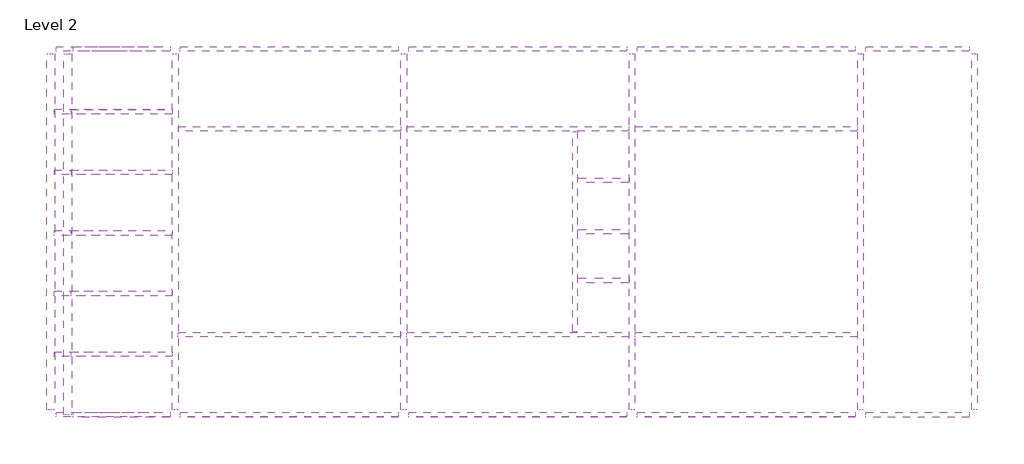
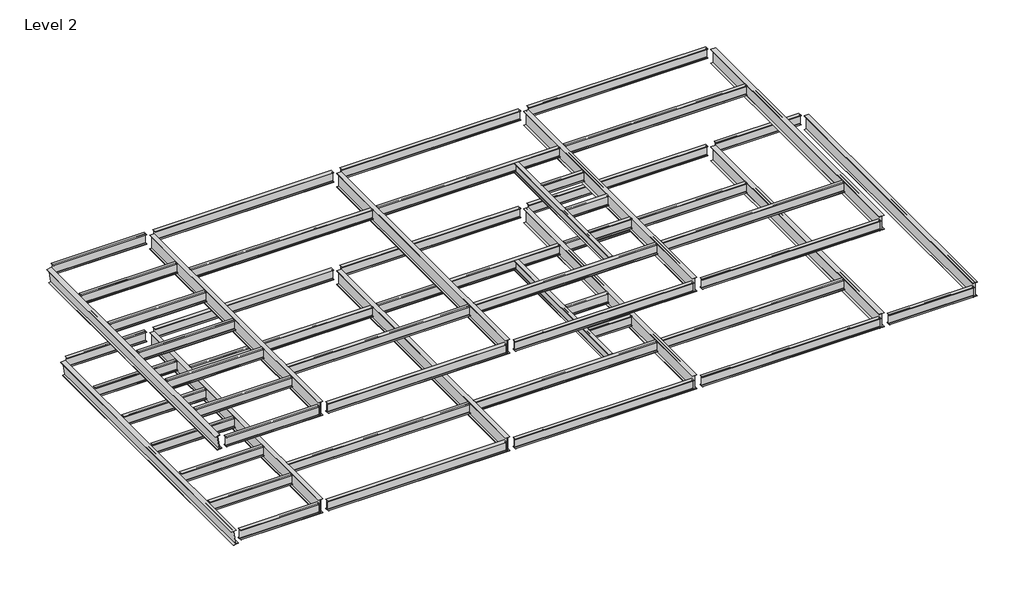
# One storey: 59 beams.
"""IFC4 building model written with IfcOpenShell, lengths in millimetres."""

from ifc_helpers import new_model, si_unit, origin, place, context, project, spatial, transform, mapped, element, save
from components import ub_universal_beams_as_3679_1_530ub92_4_72efcd79, ub_universal_beams_as_3679_1_530ub92_4_55a1222a, ub_universal_beams_as_3679_1_530ub92_4_fbe5a87e, ub_universal_beams_as_3679_1_530ub92_4_b1e17459, ub_universal_beams_as_3679_1_530ub92_4_e068ee1b, ub_universal_beams_as_3679_1_530ub92_4_2ab20e32, ub_universal_beams_as_3679_1_530ub92_4_ca06928b, ub_universal_beams_as_3679_1_530ub92_4_c3b5dabe, ub_universal_beams_as_3679_1_530ub92_4_e80fb2e1, ub_universal_beams_as_3679_1_530ub92_4_c07f3189, ub_universal_beams_as_3679_1_530ub92_4_f17eb3f2, ub_universal_beams_as_3679_1_530ub92_4_80d32716, ub_universal_beams_as_3679_1_530ub92_4_7000386a, ub_universal_beams_as_3679_1_530ub92_4_67ad7e9f, ub_universal_beams_as_3679_1_530ub92_4_e2c91430, wb_welded_beams_as_3679_2_800wb122_c41ef6cc, wb_welded_beams_as_3679_2_800wb122_3b9a96c3

model = new_model("IFC4")

# Units and contexts
model_context = context("Model", 3, world=origin())
ifc_project = project(units=[si_unit("LENGTHUNIT", "METRE", prefix="MILLI")], contexts=[model_context])

# Site, building, storey
site = spatial("IfcSite", under=ifc_project)
building = spatial("IfcBuilding", under=site)
storey = spatial("IfcBuildingStorey", under=building, Name="Level 2", Elevation=3000.0)

# Beams
placement = place(None, origin())
ub_universal_beams_as_3679_1_530ub92_4_shape = ub_universal_beams_as_3679_1_530ub92_4_72efcd79(model_context)
element("IfcBeam", 1, ObjectType="UB-Universal Beams (AS 3679_1) : 530UB92.4", at=placement, inside=storey, context=model_context, shape_type="MappedRepresentation", body=[
    mapped(ub_universal_beams_as_3679_1_530ub92_4_shape, transform((4197.5, -9335.0, 5233.5), x_axis=(1.0, 0.0, 0.0), y_axis=(0.0, 1.0, 0.0), z_axis=(0.0, 0.0, 1.0))),
])
element("IfcBeam", 2, ObjectType="UB-Universal Beams (AS 3679_1) : 530UB92.4", at=placement, inside=storey, context=model_context, shape_type="MappedRepresentation", body=[
    mapped(ub_universal_beams_as_3679_1_530ub92_4_shape, transform((4197.5, -11985.0, 5233.5), x_axis=(1.0, 0.0, 0.0), y_axis=(0.0, 1.0, 0.0), z_axis=(0.0, 0.0, 1.0))),
])
ub_universal_beams_as_3679_1_530ub92_4_2_shape = ub_universal_beams_as_3679_1_530ub92_4_55a1222a(model_context)
element("IfcBeam", 3, ObjectType="UB-Universal Beams (AS 3679_1) : 530UB92.4", at=placement, inside=storey, context=model_context, shape_type="MappedRepresentation", body=[
    mapped(ub_universal_beams_as_3679_1_530ub92_4_2_shape, transform((4197.5, -6685.0, 5233.5), x_axis=(1.0, 0.0, 0.0), y_axis=(0.0, 1.0, 0.0), z_axis=(0.0, 0.0, 1.0))),
])
element("IfcBeam", 4, ObjectType="UB-Universal Beams (AS 3679_1) : 530UB92.4", at=placement, inside=storey, context=model_context, shape_type="MappedRepresentation", body=[
    mapped(ub_universal_beams_as_3679_1_530ub92_4_2_shape, transform((4197.5, -4035.0, 5233.5), x_axis=(1.0, 0.0, 0.0), y_axis=(0.0, 1.0, 0.0), z_axis=(0.0, 0.0, 1.0))),
])
element("IfcBeam", 5, ObjectType="UB-Universal Beams (AS 3679_1) : 530UB92.4", at=placement, inside=storey, context=model_context, shape_type="MappedRepresentation", body=[
    mapped(ub_universal_beams_as_3679_1_530ub92_4_2_shape, transform((4197.5, -1385.0, 5233.5), x_axis=(1.0, 0.0, 0.0), y_axis=(0.0, 1.0, 0.0), z_axis=(0.0, 0.0, 1.0))),
])
ub_universal_beams_as_3679_1_530ub92_4_3_shape = ub_universal_beams_as_3679_1_530ub92_4_fbe5a87e(model_context)
element("IfcBeam", 6, ObjectType="UB-Universal Beams (AS 3679_1) : 530UB92.4", at=placement, inside=storey, context=model_context, shape_type="MappedRepresentation", body=[
    mapped(ub_universal_beams_as_3679_1_530ub92_4_3_shape, transform((4260.0, 1365.0, 5233.5), x_axis=(1.0, 0.0, 0.0), y_axis=(0.0, 1.0, 0.0), z_axis=(0.0, 0.0, 1.0))),
])
ub_universal_beams_as_3679_1_530ub92_4_4_shape = ub_universal_beams_as_3679_1_530ub92_4_b1e17459(model_context)
element("IfcBeam", 7, ObjectType="UB-Universal Beams (AS 3679_1) : 530UB92.4", at=placement, inside=storey, context=model_context, shape_type="MappedRepresentation", body=[
    mapped(ub_universal_beams_as_3679_1_530ub92_4_4_shape, transform((4260.0, -14635.0, 5233.5), x_axis=(-1.0, 0.0, 0.0), y_axis=(0.0, -1.0, 0.0), z_axis=(0.0, 0.0, 1.0))),
])
ub_universal_beams_as_3679_1_530ub92_4_5_shape = ub_universal_beams_as_3679_1_530ub92_4_e068ee1b(model_context)
element("IfcBeam", 8, ObjectType="UB-Universal Beams (AS 3679_1) : 530UB92.4", at=placement, inside=storey, context=model_context, shape_type="MappedRepresentation", body=[
    mapped(ub_universal_beams_as_3679_1_530ub92_4_5_shape, transform((3885.0, -14635.0, 10733.5), x_axis=(-1.0, 0.0, 0.0), y_axis=(0.0, -1.0, 0.0), z_axis=(0.0, 0.0, 1.0))),
])
ub_universal_beams_as_3679_1_530ub92_4_6_shape = ub_universal_beams_as_3679_1_530ub92_4_2ab20e32(model_context)
element("IfcBeam", 9, ObjectType="UB-Universal Beams (AS 3679_1) : 530UB92.4", at=placement, inside=storey, context=model_context, shape_type="MappedRepresentation", body=[
    mapped(ub_universal_beams_as_3679_1_530ub92_4_6_shape, transform((3822.5, -11985.0, 10733.5), x_axis=(1.0, 0.0, 0.0), y_axis=(0.0, 1.0, 0.0), z_axis=(0.0, 0.0, 1.0))),
])
element("IfcBeam", 10, ObjectType="UB-Universal Beams (AS 3679_1) : 530UB92.4", at=placement, inside=storey, context=model_context, shape_type="MappedRepresentation", body=[
    mapped(ub_universal_beams_as_3679_1_530ub92_4_6_shape, transform((3822.5, -9335.0, 10733.5), x_axis=(1.0, 0.0, 0.0), y_axis=(0.0, 1.0, 0.0), z_axis=(0.0, 0.0, 1.0))),
])
element("IfcBeam", 11, ObjectType="UB-Universal Beams (AS 3679_1) : 530UB92.4", at=placement, inside=storey, context=model_context, shape_type="MappedRepresentation", body=[
    mapped(ub_universal_beams_as_3679_1_530ub92_4_6_shape, transform((3822.5, -6685.0, 10733.5), x_axis=(1.0, 0.0, 0.0), y_axis=(0.0, 1.0, 0.0), z_axis=(0.0, 0.0, 1.0))),
])
element("IfcBeam", 12, ObjectType="UB-Universal Beams (AS 3679_1) : 530UB92.4", at=placement, inside=storey, context=model_context, shape_type="MappedRepresentation", body=[
    mapped(ub_universal_beams_as_3679_1_530ub92_4_6_shape, transform((3822.5, -4035.0, 10733.5), x_axis=(1.0, 0.0, 0.0), y_axis=(0.0, 1.0, 0.0), z_axis=(0.0, 0.0, 1.0))),
])
ub_universal_beams_as_3679_1_530ub92_4_7_shape = ub_universal_beams_as_3679_1_530ub92_4_ca06928b(model_context)
element("IfcBeam", 13, ObjectType="UB-Universal Beams (AS 3679_1) : 530UB92.4", at=placement, inside=storey, context=model_context, shape_type="MappedRepresentation", body=[
    mapped(ub_universal_beams_as_3679_1_530ub92_4_7_shape, transform((3822.5, -1385.0, 10733.5), x_axis=(1.0, 0.0, 0.0), y_axis=(0.0, 1.0, 0.0), z_axis=(0.0, 0.0, 1.0))),
])
ub_universal_beams_as_3679_1_530ub92_4_8_shape = ub_universal_beams_as_3679_1_530ub92_4_c3b5dabe(model_context)
element("IfcBeam", 14, ObjectType="UB-Universal Beams (AS 3679_1) : 530UB92.4", at=placement, inside=storey, context=model_context, shape_type="MappedRepresentation", body=[
    mapped(ub_universal_beams_as_3679_1_530ub92_4_8_shape, transform((3885.0, 1365.0, 10733.5), x_axis=(1.0, 0.0, 0.0), y_axis=(0.0, 1.0, 0.0), z_axis=(0.0, 0.0, 1.0))),
])
ub_universal_beams_as_3679_1_530ub92_4_9_shape = ub_universal_beams_as_3679_1_530ub92_4_e80fb2e1(model_context)
element("IfcBeam", 15, ObjectType="UB-Universal Beams (AS 3679_1) : 530UB92.4", at=placement, inside=storey, context=model_context, shape_type="MappedRepresentation", body=[
    mapped(ub_universal_beams_as_3679_1_530ub92_4_9_shape, transform((21608.3, -14635.0, 5233.5), x_axis=(-1.0, 0.0, 0.0), y_axis=(0.0, -1.0, 0.0), z_axis=(0.0, 0.0, 1.0))),
])
element("IfcBeam", 16, ObjectType="UB-Universal Beams (AS 3679_1) : 530UB92.4", at=placement, inside=storey, context=model_context, shape_type="MappedRepresentation", body=[
    mapped(ub_universal_beams_as_3679_1_530ub92_4_9_shape, transform((11626.1, -14635.0, 5233.5), x_axis=(-1.0, 0.0, 0.0), y_axis=(0.0, -1.0, 0.0), z_axis=(0.0, 0.0, 1.0))),
])
element("IfcBeam", 17, ObjectType="UB-Universal Beams (AS 3679_1) : 530UB92.4", at=placement, inside=storey, context=model_context, shape_type="MappedRepresentation", body=[
    mapped(ub_universal_beams_as_3679_1_530ub92_4_9_shape, transform((11626.1, 1365.0, 5233.5), x_axis=(1.0, 0.0, 0.0), y_axis=(0.0, 1.0, 0.0), z_axis=(0.0, 0.0, 1.0))),
])
element("IfcBeam", 18, ObjectType="UB-Universal Beams (AS 3679_1) : 530UB92.4", at=placement, inside=storey, context=model_context, shape_type="MappedRepresentation", body=[
    mapped(ub_universal_beams_as_3679_1_530ub92_4_9_shape, transform((21608.3, 1365.0, 5233.5), x_axis=(1.0, 0.0, 0.0), y_axis=(0.0, 1.0, 0.0), z_axis=(0.0, 0.0, 1.0))),
])
element("IfcBeam", 19, ObjectType="UB-Universal Beams (AS 3679_1) : 530UB92.4", at=placement, inside=storey, context=model_context, shape_type="MappedRepresentation", body=[
    mapped(ub_universal_beams_as_3679_1_530ub92_4_9_shape, transform((31590.5, 1365.0, 5233.5), x_axis=(1.0, 0.0, 0.0), y_axis=(0.0, 1.0, 0.0), z_axis=(0.0, 0.0, 1.0))),
])
element("IfcBeam", 20, ObjectType="UB-Universal Beams (AS 3679_1) : 530UB92.4", at=placement, inside=storey, context=model_context, shape_type="MappedRepresentation", body=[
    mapped(ub_universal_beams_as_3679_1_530ub92_4_9_shape, transform((31590.5, -14635.0, 10733.5), x_axis=(-1.0, 0.0, 0.0), y_axis=(0.0, -1.0, 0.0), z_axis=(0.0, 0.0, 1.0))),
])
element("IfcBeam", 21, ObjectType="UB-Universal Beams (AS 3679_1) : 530UB92.4", at=placement, inside=storey, context=model_context, shape_type="MappedRepresentation", body=[
    mapped(ub_universal_beams_as_3679_1_530ub92_4_9_shape, transform((21608.3, -14635.0, 10733.5), x_axis=(-1.0, 0.0, 0.0), y_axis=(0.0, -1.0, 0.0), z_axis=(0.0, 0.0, 1.0))),
])
element("IfcBeam", 22, ObjectType="UB-Universal Beams (AS 3679_1) : 530UB92.4", at=placement, inside=storey, context=model_context, shape_type="MappedRepresentation", body=[
    mapped(ub_universal_beams_as_3679_1_530ub92_4_9_shape, transform((11626.1, -14635.0, 10733.5), x_axis=(-1.0, 0.0, 0.0), y_axis=(0.0, -1.0, 0.0), z_axis=(0.0, 0.0, 1.0))),
])
element("IfcBeam", 23, ObjectType="UB-Universal Beams (AS 3679_1) : 530UB92.4", at=placement, inside=storey, context=model_context, shape_type="MappedRepresentation", body=[
    mapped(ub_universal_beams_as_3679_1_530ub92_4_9_shape, transform((11626.1, 1365.0, 10733.5), x_axis=(1.0, 0.0, 0.0), y_axis=(0.0, 1.0, 0.0), z_axis=(0.0, 0.0, 1.0))),
])
element("IfcBeam", 24, ObjectType="UB-Universal Beams (AS 3679_1) : 530UB92.4", at=placement, inside=storey, context=model_context, shape_type="MappedRepresentation", body=[
    mapped(ub_universal_beams_as_3679_1_530ub92_4_9_shape, transform((21608.3, 1365.0, 10733.5), x_axis=(1.0, 0.0, 0.0), y_axis=(0.0, 1.0, 0.0), z_axis=(0.0, 0.0, 1.0))),
])
element("IfcBeam", 25, ObjectType="UB-Universal Beams (AS 3679_1) : 530UB92.4", at=placement, inside=storey, context=model_context, shape_type="MappedRepresentation", body=[
    mapped(ub_universal_beams_as_3679_1_530ub92_4_9_shape, transform((31590.5, 1365.0, 10733.5), x_axis=(1.0, 0.0, 0.0), y_axis=(0.0, 1.0, 0.0), z_axis=(0.0, 0.0, 1.0))),
])
element("IfcBeam", 26, ObjectType="UB-Universal Beams (AS 3679_1) : 530UB92.4", at=placement, inside=storey, context=model_context, shape_type="MappedRepresentation", body=[
    mapped(ub_universal_beams_as_3679_1_530ub92_4_9_shape, transform((31590.5, -14635.0, 5233.5), x_axis=(-1.0, 0.0, 0.0), y_axis=(0.0, -1.0, 0.0), z_axis=(0.0, 0.0, 1.0))),
])
ub_universal_beams_as_3679_1_530ub92_4_10_shape = ub_universal_beams_as_3679_1_530ub92_4_c07f3189(model_context)
element("IfcBeam", 27, ObjectType="UB-Universal Beams (AS 3679_1) : 530UB92.4", at=placement, inside=storey, context=model_context, shape_type="MappedRepresentation", body=[
    mapped(ub_universal_beams_as_3679_1_530ub92_4_10_shape, transform((11688.6, -11135.0, 5233.5), x_axis=(-1.0, 0.0, 0.0), y_axis=(0.0, -1.0, 0.0), z_axis=(0.0, 0.0, 1.0))),
])
element("IfcBeam", 28, ObjectType="UB-Universal Beams (AS 3679_1) : 530UB92.4", at=placement, inside=storey, context=model_context, shape_type="MappedRepresentation", body=[
    mapped(ub_universal_beams_as_3679_1_530ub92_4_10_shape, transform((11688.6, -2135.0, 5233.5), x_axis=(-1.0, 0.0, 0.0), y_axis=(0.0, -1.0, 0.0), z_axis=(0.0, 0.0, 1.0))),
])
element("IfcBeam", 29, ObjectType="UB-Universal Beams (AS 3679_1) : 530UB92.4", at=placement, inside=storey, context=model_context, shape_type="MappedRepresentation", body=[
    mapped(ub_universal_beams_as_3679_1_530ub92_4_10_shape, transform((11688.6, -2135.0, 10733.5), x_axis=(-1.0, 0.0, 0.0), y_axis=(0.0, -1.0, 0.0), z_axis=(0.0, 0.0, 1.0))),
])
element("IfcBeam", 30, ObjectType="UB-Universal Beams (AS 3679_1) : 530UB92.4", at=placement, inside=storey, context=model_context, shape_type="MappedRepresentation", body=[
    mapped(ub_universal_beams_as_3679_1_530ub92_4_10_shape, transform((11688.6, -11135.0, 10733.5), x_axis=(-1.0, 0.0, 0.0), y_axis=(0.0, -1.0, 0.0), z_axis=(0.0, 0.0, 1.0))),
])
ub_universal_beams_as_3679_1_530ub92_4_11_shape = ub_universal_beams_as_3679_1_530ub92_4_f17eb3f2(model_context)
element("IfcBeam", 31, ObjectType="UB-Universal Beams (AS 3679_1) : 530UB92.4", at=placement, inside=storey, context=model_context, shape_type="MappedRepresentation", body=[
    mapped(ub_universal_beams_as_3679_1_530ub92_4_11_shape, transform((25286.9, -4385.0, 10733.5), x_axis=(1.0, 0.0, 0.0), y_axis=(0.0, 1.0, 0.0), z_axis=(0.0, 0.0, 1.0))),
])
element("IfcBeam", 32, ObjectType="UB-Universal Beams (AS 3679_1) : 530UB92.4", at=placement, inside=storey, context=model_context, shape_type="MappedRepresentation", body=[
    mapped(ub_universal_beams_as_3679_1_530ub92_4_11_shape, transform((25286.9, -8760.0, 10733.5), x_axis=(1.0, 0.0, 0.0), y_axis=(0.0, 1.0, 0.0), z_axis=(0.0, 0.0, 1.0))),
])
element("IfcBeam", 33, ObjectType="UB-Universal Beams (AS 3679_1) : 530UB92.4", at=placement, inside=storey, context=model_context, shape_type="MappedRepresentation", body=[
    mapped(ub_universal_beams_as_3679_1_530ub92_4_11_shape, transform((25286.9, -4385.0, 5233.5), x_axis=(1.0, 0.0, 0.0), y_axis=(0.0, 1.0, 0.0), z_axis=(0.0, 0.0, 1.0))),
])
element("IfcBeam", 34, ObjectType="UB-Universal Beams (AS 3679_1) : 530UB92.4", at=placement, inside=storey, context=model_context, shape_type="MappedRepresentation", body=[
    mapped(ub_universal_beams_as_3679_1_530ub92_4_11_shape, transform((25286.9, -8760.0, 5233.5), x_axis=(1.0, 0.0, 0.0), y_axis=(0.0, 1.0, 0.0), z_axis=(0.0, 0.0, 1.0))),
])
ub_universal_beams_as_3679_1_530ub92_4_12_shape = ub_universal_beams_as_3679_1_530ub92_4_80d32716(model_context)
element("IfcBeam", 35, ObjectType="UB-Universal Beams (AS 3679_1) : 530UB92.4", at=placement, inside=storey, context=model_context, shape_type="MappedRepresentation", body=[
    mapped(ub_universal_beams_as_3679_1_530ub92_4_12_shape, transform((31590.5, -11135.0, 5233.5), x_axis=(-1.0, 0.0, 0.0), y_axis=(0.0, -1.0, 0.0), z_axis=(0.0, 0.0, 1.0))),
])
element("IfcBeam", 36, ObjectType="UB-Universal Beams (AS 3679_1) : 530UB92.4", at=placement, inside=storey, context=model_context, shape_type="MappedRepresentation", body=[
    mapped(ub_universal_beams_as_3679_1_530ub92_4_12_shape, transform((21608.3, -11135.0, 5233.5), x_axis=(-1.0, 0.0, 0.0), y_axis=(0.0, -1.0, 0.0), z_axis=(0.0, 0.0, 1.0))),
])
element("IfcBeam", 37, ObjectType="UB-Universal Beams (AS 3679_1) : 530UB92.4", at=placement, inside=storey, context=model_context, shape_type="MappedRepresentation", body=[
    mapped(ub_universal_beams_as_3679_1_530ub92_4_12_shape, transform((31590.5, -2135.0, 5233.5), x_axis=(-1.0, 0.0, 0.0), y_axis=(0.0, -1.0, 0.0), z_axis=(0.0, 0.0, 1.0))),
])
element("IfcBeam", 38, ObjectType="UB-Universal Beams (AS 3679_1) : 530UB92.4", at=placement, inside=storey, context=model_context, shape_type="MappedRepresentation", body=[
    mapped(ub_universal_beams_as_3679_1_530ub92_4_12_shape, transform((21608.3, -2135.0, 5233.5), x_axis=(-1.0, 0.0, 0.0), y_axis=(0.0, -1.0, 0.0), z_axis=(0.0, 0.0, 1.0))),
])
element("IfcBeam", 39, ObjectType="UB-Universal Beams (AS 3679_1) : 530UB92.4", at=placement, inside=storey, context=model_context, shape_type="MappedRepresentation", body=[
    mapped(ub_universal_beams_as_3679_1_530ub92_4_12_shape, transform((31590.5, -2135.0, 10733.5), x_axis=(-1.0, 0.0, 0.0), y_axis=(0.0, -1.0, 0.0), z_axis=(0.0, 0.0, 1.0))),
])
element("IfcBeam", 40, ObjectType="UB-Universal Beams (AS 3679_1) : 530UB92.4", at=placement, inside=storey, context=model_context, shape_type="MappedRepresentation", body=[
    mapped(ub_universal_beams_as_3679_1_530ub92_4_12_shape, transform((21608.3, -2135.0, 10733.5), x_axis=(-1.0, 0.0, 0.0), y_axis=(0.0, -1.0, 0.0), z_axis=(0.0, 0.0, 1.0))),
])
element("IfcBeam", 41, ObjectType="UB-Universal Beams (AS 3679_1) : 530UB92.4", at=placement, inside=storey, context=model_context, shape_type="MappedRepresentation", body=[
    mapped(ub_universal_beams_as_3679_1_530ub92_4_12_shape, transform((31590.5, -11135.0, 10733.5), x_axis=(-1.0, 0.0, 0.0), y_axis=(0.0, -1.0, 0.0), z_axis=(0.0, 0.0, 1.0))),
])
element("IfcBeam", 42, ObjectType="UB-Universal Beams (AS 3679_1) : 530UB92.4", at=placement, inside=storey, context=model_context, shape_type="MappedRepresentation", body=[
    mapped(ub_universal_beams_as_3679_1_530ub92_4_12_shape, transform((21608.3, -11135.0, 10733.5), x_axis=(-1.0, 0.0, 0.0), y_axis=(0.0, -1.0, 0.0), z_axis=(0.0, 0.0, 1.0))),
])
ub_universal_beams_as_3679_1_530ub92_4_13_shape = ub_universal_beams_as_3679_1_530ub92_4_7000386a(model_context)
element("IfcBeam", 43, ObjectType="UB-Universal Beams (AS 3679_1) : 530UB92.4", at=placement, inside=storey, context=model_context, shape_type="MappedRepresentation", body=[
    mapped(ub_universal_beams_as_3679_1_530ub92_4_13_shape, transform((25349.4, -6635.0, 10733.5), x_axis=(1.0, 0.0, 0.0), y_axis=(0.0, 1.0, 0.0), z_axis=(0.0, 0.0, 1.0))),
])
element("IfcBeam", 44, ObjectType="UB-Universal Beams (AS 3679_1) : 530UB92.4", at=placement, inside=storey, context=model_context, shape_type="MappedRepresentation", body=[
    mapped(ub_universal_beams_as_3679_1_530ub92_4_13_shape, transform((25349.4, -6635.0, 5233.5), x_axis=(1.0, 0.0, 0.0), y_axis=(0.0, 1.0, 0.0), z_axis=(0.0, 0.0, 1.0))),
])
ub_universal_beams_as_3679_1_530ub92_4_14_shape = ub_universal_beams_as_3679_1_530ub92_4_67ad7e9f(model_context)
element("IfcBeam", 45, ObjectType="UB-Universal Beams (AS 3679_1) : 530UB92.4", at=placement, inside=storey, context=model_context, shape_type="MappedRepresentation", body=[
    mapped(ub_universal_beams_as_3679_1_530ub92_4_14_shape, transform((39072.7, -14635.0, 5233.5), x_axis=(-1.0, 0.0, 0.0), y_axis=(0.0, -1.0, 0.0), z_axis=(0.0, 0.0, 1.0))),
])
element("IfcBeam", 46, ObjectType="UB-Universal Beams (AS 3679_1) : 530UB92.4", at=placement, inside=storey, context=model_context, shape_type="MappedRepresentation", body=[
    mapped(ub_universal_beams_as_3679_1_530ub92_4_14_shape, transform((39072.7, 1365.0, 5233.5), x_axis=(1.0, 0.0, 0.0), y_axis=(0.0, 1.0, 0.0), z_axis=(0.0, 0.0, 1.0))),
])
ub_universal_beams_as_3679_1_530ub92_4_15_shape = ub_universal_beams_as_3679_1_530ub92_4_e2c91430(model_context)
element("IfcBeam", 47, ObjectType="UB-Universal Beams (AS 3679_1) : 530UB92.4", at=placement, inside=storey, context=model_context, shape_type="MappedRepresentation", body=[
    mapped(ub_universal_beams_as_3679_1_530ub92_4_15_shape, transform((24099.4, -6572.5, 10733.5), x_axis=(0.0, -1.0, 0.0), y_axis=(1.0, 0.0, 0.0), z_axis=(0.0, 0.0, 1.0))),
])
element("IfcBeam", 48, ObjectType="UB-Universal Beams (AS 3679_1) : 530UB92.4", at=placement, inside=storey, context=model_context, shape_type="MappedRepresentation", body=[
    mapped(ub_universal_beams_as_3679_1_530ub92_4_15_shape, transform((24099.4, -6572.5, 5233.5), x_axis=(0.0, -1.0, 0.0), y_axis=(1.0, 0.0, 0.0), z_axis=(0.0, 0.0, 1.0))),
])
wb_welded_beams_as_3679_2_800wb122_shape = wb_welded_beams_as_3679_2_800wb122_c41ef6cc(model_context)
element("IfcBeam", 49, ObjectType="WB-Welded Beams (AS 3679_2) : 800WB122", at=placement, inside=storey, context=model_context, shape_type="MappedRepresentation", body=[
    mapped(wb_welded_beams_as_3679_2_800wb122_shape, transform((1190.1022201, -6635.0, 10607.8523934), x_axis=(0.0, 1.0, 0.0), y_axis=(-0.9902717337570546, 0.0, -0.13914702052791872), z_axis=(-0.13914702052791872, 0.0, 0.9902717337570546))),
])
element("IfcBeam", 50, ObjectType="WB-Welded Beams (AS 3679_2) : 800WB122", at=placement, inside=storey, context=model_context, shape_type="MappedRepresentation", body=[
    mapped(wb_welded_beams_as_3679_2_800wb122_shape, transform((16617.2, -6635.0, 5104.0), x_axis=(0.0, 1.0, 0.0), y_axis=(-1.0, 0.0, 0.0), z_axis=(0.0, 0.0, 1.0))),
])
element("IfcBeam", 51, ObjectType="WB-Welded Beams (AS 3679_2) : 800WB122", at=placement, inside=storey, context=model_context, shape_type="MappedRepresentation", body=[
    mapped(wb_welded_beams_as_3679_2_800wb122_shape, transform((26599.4, -6635.0, 5104.0), x_axis=(0.0, 1.0, 0.0), y_axis=(-1.0, 0.0, 0.0), z_axis=(0.0, 0.0, 1.0))),
])
element("IfcBeam", 52, ObjectType="WB-Welded Beams (AS 3679_2) : 800WB122", at=placement, inside=storey, context=model_context, shape_type="MappedRepresentation", body=[
    mapped(wb_welded_beams_as_3679_2_800wb122_shape, transform((36581.6, -6635.0, 10604.0), x_axis=(0.0, -1.0, 0.0), y_axis=(1.0, 0.0, 0.0), z_axis=(0.0, 0.0, 1.0))),
])
element("IfcBeam", 53, ObjectType="WB-Welded Beams (AS 3679_2) : 800WB122", at=placement, inside=storey, context=model_context, shape_type="MappedRepresentation", body=[
    mapped(wb_welded_beams_as_3679_2_800wb122_shape, transform((6635.0, -6635.0, 10604.0), x_axis=(0.0, 1.0, 0.0), y_axis=(-1.0, 0.0, 0.0), z_axis=(0.0, 0.0, 1.0))),
])
element("IfcBeam", 54, ObjectType="WB-Welded Beams (AS 3679_2) : 800WB122", at=placement, inside=storey, context=model_context, shape_type="MappedRepresentation", body=[
    mapped(wb_welded_beams_as_3679_2_800wb122_shape, transform((16617.2, -6635.0, 10604.0), x_axis=(0.0, 1.0, 0.0), y_axis=(-1.0, 0.0, 0.0), z_axis=(0.0, 0.0, 1.0))),
])
element("IfcBeam", 55, ObjectType="WB-Welded Beams (AS 3679_2) : 800WB122", at=placement, inside=storey, context=model_context, shape_type="MappedRepresentation", body=[
    mapped(wb_welded_beams_as_3679_2_800wb122_shape, transform((26599.4, -6635.0, 10604.0), x_axis=(0.0, 1.0, 0.0), y_axis=(-1.0, 0.0, 0.0), z_axis=(0.0, 0.0, 1.0))),
])
element("IfcBeam", 56, ObjectType="WB-Welded Beams (AS 3679_2) : 800WB122", at=placement, inside=storey, context=model_context, shape_type="MappedRepresentation", body=[
    mapped(wb_welded_beams_as_3679_2_800wb122_shape, transform((41563.8, -6635.0, 5104.0), x_axis=(0.0, -1.0, 0.0), y_axis=(1.0, 0.0, 0.0), z_axis=(0.0, 0.0, 1.0))),
])
element("IfcBeam", 57, ObjectType="WB-Welded Beams (AS 3679_2) : 800WB122", at=placement, inside=storey, context=model_context, shape_type="MappedRepresentation", body=[
    mapped(wb_welded_beams_as_3679_2_800wb122_shape, transform((36581.6, -6635.0, 5104.0), x_axis=(0.0, -1.0, 0.0), y_axis=(1.0, 0.0, 0.0), z_axis=(0.0, 0.0, 1.0))),
])
element("IfcBeam", 58, ObjectType="WB-Welded Beams (AS 3679_2) : 800WB122", at=placement, inside=storey, context=model_context, shape_type="MappedRepresentation", body=[
    mapped(wb_welded_beams_as_3679_2_800wb122_shape, transform((6635.0, -6635.0, 5104.0), x_axis=(0.0, 1.0, 0.0), y_axis=(-1.0, 0.0, 0.0), z_axis=(0.0, 0.0, 1.0))),
])
wb_welded_beams_as_3679_2_800wb122_2_shape = wb_welded_beams_as_3679_2_800wb122_3b9a96c3(model_context)
element("IfcBeam", 59, ObjectType="WB-Welded Beams (AS 3679_2) : 800WB122", at=placement, inside=storey, context=model_context, shape_type="MappedRepresentation", body=[
    mapped(wb_welded_beams_as_3679_2_800wb122_2_shape, transform((1940.1022201, -6635.0, 5107.8523934), x_axis=(0.0, 1.0, 0.0), y_axis=(-0.9902717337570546, 0.0, -0.13914702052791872), z_axis=(-0.13914702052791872, 0.0, 0.9902717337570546))),
])

save(model, "model.ifc")
